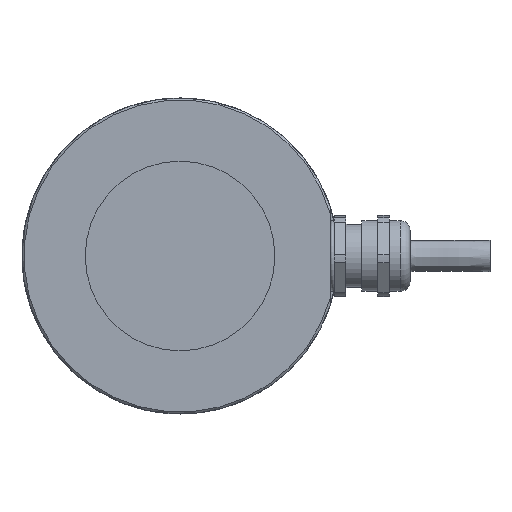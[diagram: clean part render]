
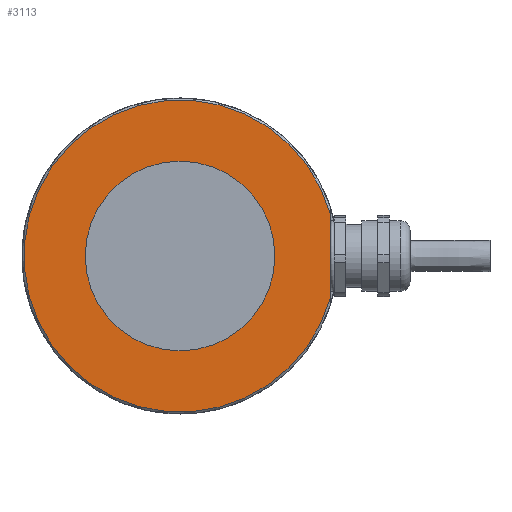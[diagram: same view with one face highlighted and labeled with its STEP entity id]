
A CAD part, left-side view. The second image highlights one B-rep face of the part: STEP entity #3113.
In plain terms, the highlighted planar face has unit normal (-1, 0, 0).
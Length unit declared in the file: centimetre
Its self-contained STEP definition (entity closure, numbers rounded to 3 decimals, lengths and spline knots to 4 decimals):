
#740=VECTOR('',#5254,1.);
#902=LINE('',#3621,#740);
#1181=PLANE('',#3295);
#1269=VERTEX_POINT('',#3612);
#1270=VERTEX_POINT('',#3614);
#1272=VERTEX_POINT('',#3623);
#1504=CIRCLE('',#3293,3.95);
#1506=CIRCLE('',#3296,2.4);
#1596=EDGE_CURVE('',#1269,#1270,#1504,.T.);
#1599=EDGE_CURVE('',#1269,#1270,#902,.T.);
#1600=EDGE_CURVE('',#1272,#1272,#1506,.T.);
#1983=ORIENTED_EDGE('',*,*,#1596,.F.);
#1984=ORIENTED_EDGE('',*,*,#1599,.T.);
#1985=ORIENTED_EDGE('',*,*,#1600,.T.);
#2716=EDGE_LOOP('',(#1983,#1984));
#2717=EDGE_LOOP('',(#1985));
#2920=FACE_BOUND('',#2716,.T.);
#2921=FACE_BOUND('',#2717,.T.);
#3113=ADVANCED_FACE('',(#2920,#2921),#1181,.F.);
#3293=AXIS2_PLACEMENT_3D('',#3613,#5249,#5250);
#3295=AXIS2_PLACEMENT_3D('',#3620,#5253,$);
#3296=AXIS2_PLACEMENT_3D('',#3622,#5255,#5256);
#3612=CARTESIAN_POINT('',(-2.4,-3.8,-1.0782));
#3613=CARTESIAN_POINT('',(-2.4,0.,0.));
#3614=CARTESIAN_POINT('',(-2.4,-3.8,1.0782));
#3620=CARTESIAN_POINT('',(-2.4,0.,0.));
#3621=CARTESIAN_POINT('',(-2.4,-3.8,0.));
#3622=CARTESIAN_POINT('',(-2.4,0.,0.));
#3623=CARTESIAN_POINT('',(-2.4,0.,-2.4));
#5249=DIRECTION('',(1.,0.,0.));
#5250=DIRECTION('',(0.,3.95,0.));
#5253=DIRECTION('',(1.,0.,0.));
#5254=DIRECTION('',(0.,0.,1.));
#5255=DIRECTION('',(1.,0.,0.));
#5256=DIRECTION('',(0.,0.,-2.4));
